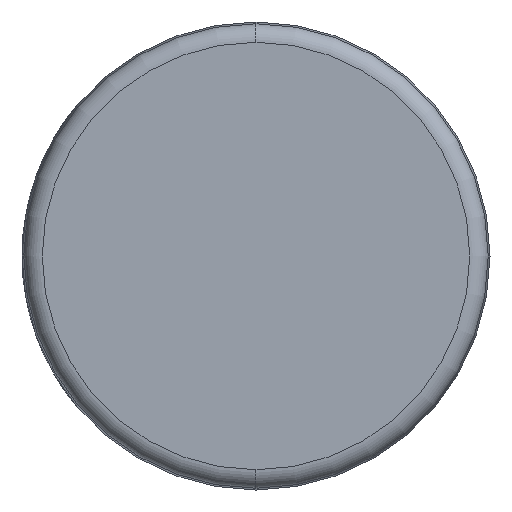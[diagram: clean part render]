
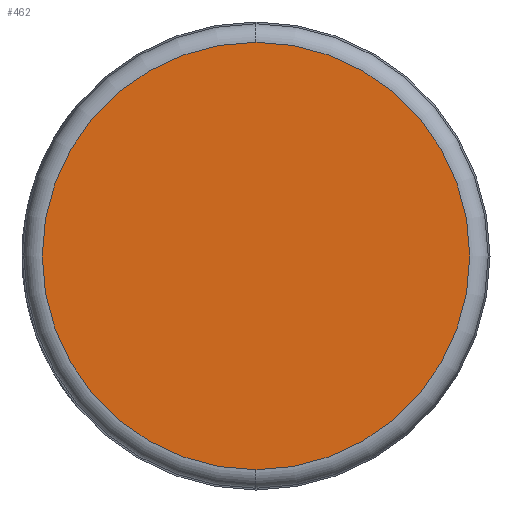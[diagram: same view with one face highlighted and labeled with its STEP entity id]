
A CAD part, left-side view. The second image highlights one B-rep face of the part: STEP entity #462.
In plain terms, the highlighted planar face has unit normal (-1, 0, 0).
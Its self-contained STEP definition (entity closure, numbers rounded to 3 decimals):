
#48 = AXIS2_PLACEMENT_3D ( 'NONE', #616, #295, #644 ) ;
#75 = CIRCLE ( 'NONE', #48, 28.772 ) ;
#172 = CARTESIAN_POINT ( 'NONE',  ( 0., 0., 0. ) ) ;
#221 = VERTEX_POINT ( 'NONE', #600 ) ;
#269 = DIRECTION ( 'NONE',  ( 0., 0., -1. ) ) ;
#285 = CARTESIAN_POINT ( 'NONE',  ( 0., 0., 28.772 ) ) ;
#295 = DIRECTION ( 'NONE',  ( -1., 0., 0. ) ) ;
#380 = ORIENTED_EDGE ( 'NONE', *, *, #707, .T. ) ;
#390 = DIRECTION ( 'NONE',  ( 1., 0., 0. ) ) ;
#401 = ORIENTED_EDGE ( 'NONE', *, *, #539, .T. ) ;
#403 = PLANE ( 'NONE',  #699 ) ;
#432 = EDGE_LOOP ( 'NONE', ( #380, #401 ) ) ;
#462 = ADVANCED_FACE ( 'NONE', ( #538 ), #403, .F. ) ;
#479 = VERTEX_POINT ( 'NONE', #285 ) ;
#507 = CARTESIAN_POINT ( 'NONE',  ( 0., 0., 0. ) ) ;
#513 = AXIS2_PLACEMENT_3D ( 'NONE', #172, #578, #269 ) ;
#538 = FACE_OUTER_BOUND ( 'NONE', #432, .T. ) ;
#539 = EDGE_CURVE ( 'NONE', #479, #221, #568, .T. ) ;
#568 = CIRCLE ( 'NONE', #513, 28.772 ) ;
#578 = DIRECTION ( 'NONE',  ( -1., 0., 0. ) ) ;
#600 = CARTESIAN_POINT ( 'NONE',  ( 0., 0., -28.772 ) ) ;
#616 = CARTESIAN_POINT ( 'NONE',  ( 0., 0., 0. ) ) ;
#644 = DIRECTION ( 'NONE',  ( 0., 0., -1. ) ) ;
#699 = AXIS2_PLACEMENT_3D ( 'NONE', #507, #390, #756 ) ;
#707 = EDGE_CURVE ( 'NONE', #221, #479, #75, .T. ) ;
#756 = DIRECTION ( 'NONE',  ( 0., 0., -1. ) ) ;
